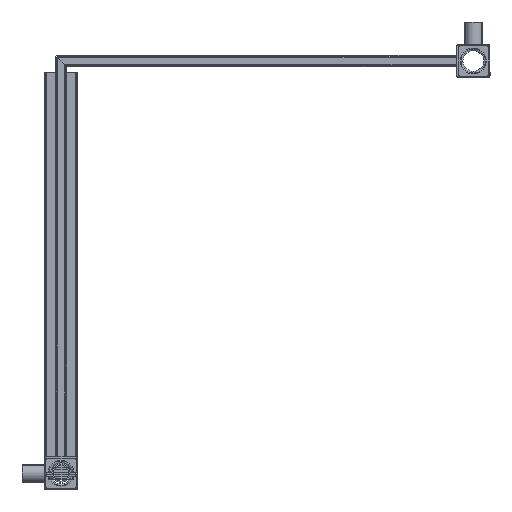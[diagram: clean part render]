
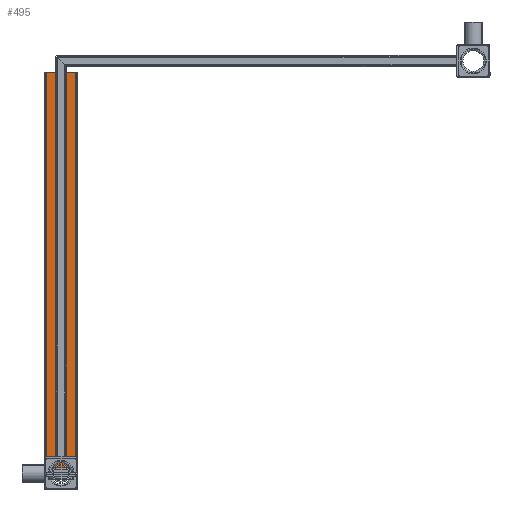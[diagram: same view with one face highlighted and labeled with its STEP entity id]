
A CAD part, front view. The second image highlights one B-rep face of the part: STEP entity #495.
In plain terms, the highlighted planar face has unit normal (0, -1, 0) as drawn and (0, 0, 1) by its records, which use the part's own axes.
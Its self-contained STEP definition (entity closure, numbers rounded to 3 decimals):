
#495 = ADVANCED_FACE( '', ( #1112 ), #1113, .T. );
#1112 = FACE_OUTER_BOUND( '', #1879, .T. );
#1113 = PLANE( '', #1880 );
#1879 = EDGE_LOOP( '', ( #3323, #3324, #3325, #3326 ) );
#1880 = AXIS2_PLACEMENT_3D( '', #3327, #3328, #3329 );
#3323 = ORIENTED_EDGE( '', *, *, #4902, .F. );
#3324 = ORIENTED_EDGE( '', *, *, #4903, .T. );
#3325 = ORIENTED_EDGE( '', *, *, #4683, .F. );
#3326 = ORIENTED_EDGE( '', *, *, #4904, .T. );
#3327 = CARTESIAN_POINT( '', ( 15., 389.28, 5. ) );
#3328 = DIRECTION( '', ( 0., 0., 1. ) );
#3329 = DIRECTION( '', ( 1., 0., 0. ) );
#4683 = EDGE_CURVE( '', #5745, #5724, #5747, .T. );
#4902 = EDGE_CURVE( '', #6060, #6061, #6062, .T. );
#4903 = EDGE_CURVE( '', #6060, #5724, #6063, .F. );
#4904 = EDGE_CURVE( '', #5745, #6061, #6064, .T. );
#5724 = VERTEX_POINT( '', #7112 );
#5745 = VERTEX_POINT( '', #7139 );
#5747 = LINE( '', #7141, #7142 );
#6060 = VERTEX_POINT( '', #7560 );
#6061 = VERTEX_POINT( '', #7561 );
#6062 = LINE( '', #7562, #7563 );
#6063 = LINE( '', #7564, #7565 );
#6064 = LINE( '', #7566, #7567 );
#7112 = CARTESIAN_POINT( '', ( 13., 380., 5. ) );
#7139 = CARTESIAN_POINT( '', ( -13., 380., 5. ) );
#7141 = CARTESIAN_POINT( '', ( -15., 380., 5. ) );
#7142 = VECTOR( '', #8509, 1000. );
#7560 = CARTESIAN_POINT( '', ( 13., 25., 5. ) );
#7561 = CARTESIAN_POINT( '', ( -13., 25., 5. ) );
#7562 = CARTESIAN_POINT( '', ( 15., 25., 5. ) );
#7563 = VECTOR( '', #8759, 1000. );
#7564 = CARTESIAN_POINT( '', ( 13., 389.28, 5. ) );
#7565 = VECTOR( '', #8760, 1000. );
#7566 = CARTESIAN_POINT( '', ( -13., 389.28, 5. ) );
#7567 = VECTOR( '', #8761, 1000. );
#8509 = DIRECTION( '', ( 1., 0., 0. ) );
#8759 = DIRECTION( '', ( -1., 0., 0. ) );
#8760 = DIRECTION( '', ( 0., -1., 0. ) );
#8761 = DIRECTION( '', ( 0., -1., 0. ) );
